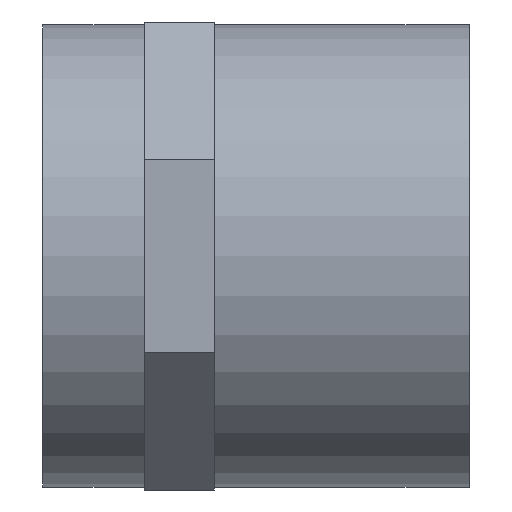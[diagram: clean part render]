
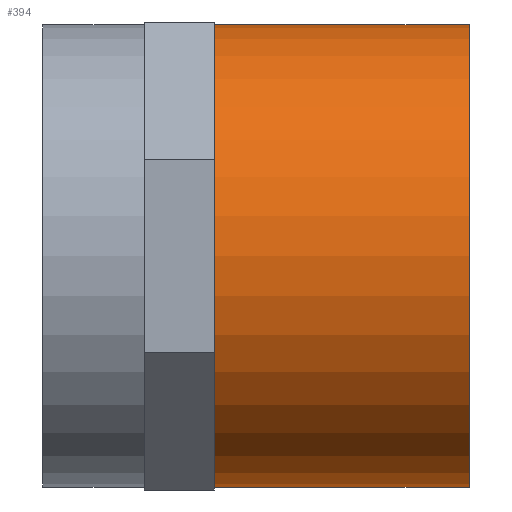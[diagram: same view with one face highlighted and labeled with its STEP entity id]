
A CAD part, left-side view. The second image highlights one B-rep face of the part: STEP entity #394.
In plain terms, the highlighted cylindrical face has radius 44.5 mm (diameter 89 mm), a full revolution.
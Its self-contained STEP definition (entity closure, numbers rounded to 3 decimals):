
#18=CYLINDRICAL_SURFACE('',#428,44.5);
#28=FACE_BOUND('',#113,.T.);
#48=CIRCLE('',#412,44.5);
#56=CIRCLE('',#427,44.5);
#79=FACE_OUTER_BOUND('',#112,.T.);
#112=EDGE_LOOP('',(#356));
#113=EDGE_LOOP('',(#357));
#209=VERTEX_POINT('',#5395);
#216=VERTEX_POINT('',#5417);
#258=EDGE_CURVE('',#209,#209,#48,.T.);
#266=EDGE_CURVE('',#216,#216,#56,.T.);
#356=ORIENTED_EDGE('',*,*,#258,.T.);
#357=ORIENTED_EDGE('',*,*,#266,.T.);
#394=ADVANCED_FACE('',(#79,#28),#18,.T.);
#412=AXIS2_PLACEMENT_3D('',#5396,#486,#487);
#427=AXIS2_PLACEMENT_3D('',#5418,#516,#517);
#428=AXIS2_PLACEMENT_3D('',#5419,#518,#519);
#486=DIRECTION('center_axis',(0.,-1.,0.));
#487=DIRECTION('ref_axis',(-1.,0.,0.));
#516=DIRECTION('center_axis',(0.,1.,0.));
#517=DIRECTION('ref_axis',(1.,0.,0.));
#518=DIRECTION('center_axis',(0.,1.,0.));
#519=DIRECTION('ref_axis',(-1.,0.,0.));
#5395=CARTESIAN_POINT('',(44.5,49.,0.));
#5396=CARTESIAN_POINT('Origin',(0.,49.,0.));
#5417=CARTESIAN_POINT('',(-44.5,0.,0.));
#5418=CARTESIAN_POINT('Origin',(0.,0.,0.));
#5419=CARTESIAN_POINT('Origin',(0.,41.,0.));
